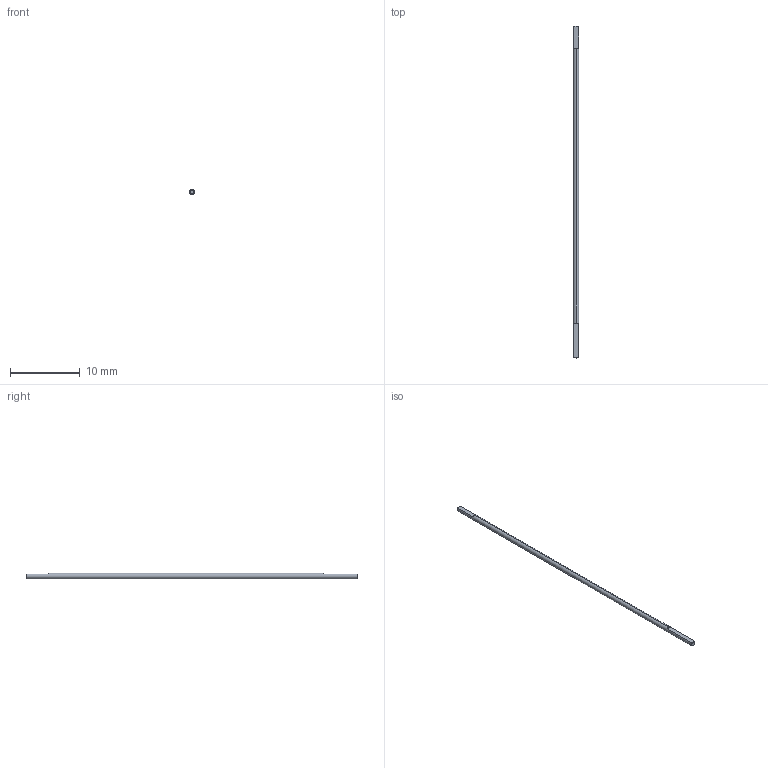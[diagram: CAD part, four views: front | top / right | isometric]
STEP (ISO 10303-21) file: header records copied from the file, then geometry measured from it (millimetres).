
FILE_DESCRIPTION (( 'STEP AP214' ), '1' );
FILE_NAME ('TRL-0026-A.STEP', '2021-06-29T18:46:27', ( '' ), ( '' ), 'SwSTEP 2.0', 'SolidWorks 2016', '' );
FILE_SCHEMA (( 'AUTOMOTIVE_DESIGN' ));
Length unit declared in the file: millimetre
Products named in the file (1): TRL-0026-A
Bounding box: 0.8 x 47.5 x 0.8 mm (x, y, z)
Volume: 23.3 mm3; surface area: 119.3 mm2
Topology: 1 solids, 1 shells, 13 faces, 28 edges, 17 vertices
Faces by surface type: plane 8, cone 3, cylinder 2
Entity records: 391 total; most frequent: CARTESIAN_POINT 71, DIRECTION 63, ORIENTED_EDGE 56, EDGE_CURVE 28, AXIS2_PLACEMENT_3D 25, VERTEX_POINT 17, EDGE_LOOP 13, FACE_OUTER_BOUND 13
